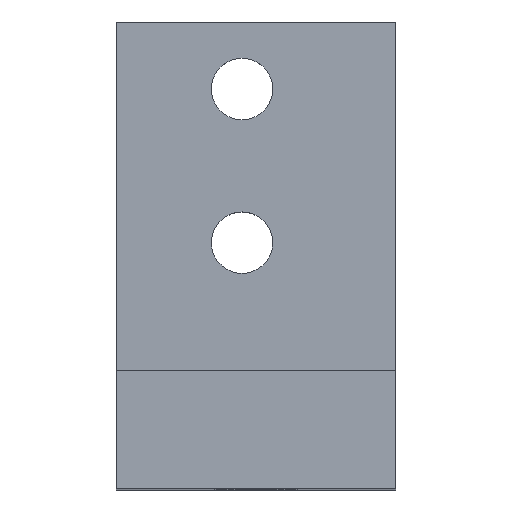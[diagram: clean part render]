
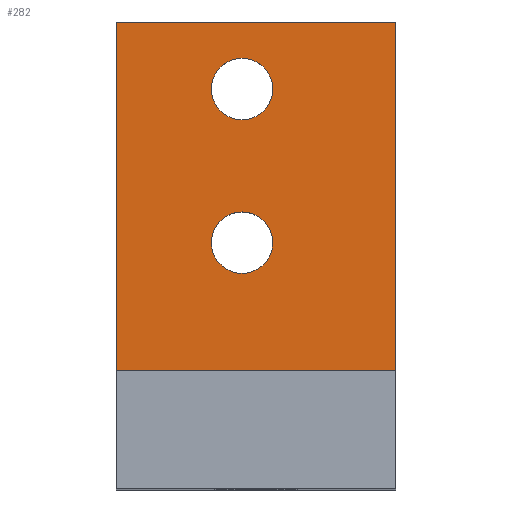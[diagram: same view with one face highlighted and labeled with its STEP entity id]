
A CAD part, top view. The second image highlights one B-rep face of the part: STEP entity #282.
In plain terms, the highlighted planar face has unit normal (0, 0, 1).
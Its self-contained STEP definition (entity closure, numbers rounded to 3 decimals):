
#25=FACE_BOUND('',#71,.T.);
#26=FACE_BOUND('',#72,.T.);
#39=CIRCLE('',#319,2.2);
#41=CIRCLE('',#322,2.2);
#50=FACE_OUTER_BOUND('',#70,.T.);
#70=EDGE_LOOP('',(#219,#220,#221,#222));
#71=EDGE_LOOP('',(#223));
#72=EDGE_LOOP('',(#224));
#93=LINE('',#462,#117);
#94=LINE('',#464,#118);
#95=LINE('',#466,#119);
#96=LINE('',#467,#120);
#117=VECTOR('',#383,10.);
#118=VECTOR('',#384,10.);
#119=VECTOR('',#385,10.);
#120=VECTOR('',#386,10.);
#145=VERTEX_POINT('',#448);
#147=VERTEX_POINT('',#454);
#149=VERTEX_POINT('',#460);
#150=VERTEX_POINT('',#461);
#151=VERTEX_POINT('',#463);
#152=VERTEX_POINT('',#465);
#171=EDGE_CURVE('',#145,#145,#39,.T.);
#174=EDGE_CURVE('',#147,#147,#41,.T.);
#177=EDGE_CURVE('',#149,#150,#93,.T.);
#178=EDGE_CURVE('',#149,#151,#94,.T.);
#179=EDGE_CURVE('',#152,#151,#95,.T.);
#180=EDGE_CURVE('',#150,#152,#96,.T.);
#219=ORIENTED_EDGE('',*,*,#177,.F.);
#220=ORIENTED_EDGE('',*,*,#178,.T.);
#221=ORIENTED_EDGE('',*,*,#179,.F.);
#222=ORIENTED_EDGE('',*,*,#180,.F.);
#223=ORIENTED_EDGE('',*,*,#171,.T.);
#224=ORIENTED_EDGE('',*,*,#174,.T.);
#268=PLANE('',#324);
#282=ADVANCED_FACE('',(#50,#25,#26),#268,.T.);
#319=AXIS2_PLACEMENT_3D('',#449,#369,#370);
#322=AXIS2_PLACEMENT_3D('',#455,#376,#377);
#324=AXIS2_PLACEMENT_3D('',#459,#381,#382);
#369=DIRECTION('center_axis',(0.,0.,-1.));
#370=DIRECTION('ref_axis',(1.,0.,0.));
#376=DIRECTION('center_axis',(0.,0.,-1.));
#377=DIRECTION('ref_axis',(1.,0.,0.));
#381=DIRECTION('center_axis',(0.,0.,1.));
#382=DIRECTION('ref_axis',(1.,0.,0.));
#383=DIRECTION('',(-1.,0.,0.));
#384=DIRECTION('',(0.,1.,0.));
#385=DIRECTION('',(1.,0.,0.));
#386=DIRECTION('',(0.,1.,0.));
#448=CARTESIAN_POINT('',(-13.2,12.2,-11.5));
#449=CARTESIAN_POINT('Origin',(-11.,12.2,-11.5));
#454=CARTESIAN_POINT('',(-13.2,23.2,-11.5));
#455=CARTESIAN_POINT('Origin',(-11.,23.2,-11.5));
#459=CARTESIAN_POINT('Origin',(-20.,3.,-11.5));
#460=CARTESIAN_POINT('',(0.,3.,-11.5));
#461=CARTESIAN_POINT('',(-20.,3.,-11.5));
#462=CARTESIAN_POINT('',(-15.,3.,-11.5));
#463=CARTESIAN_POINT('',(0.,28.,-11.5));
#464=CARTESIAN_POINT('',(0.,3.,-11.5));
#465=CARTESIAN_POINT('',(-20.,28.,-11.5));
#466=CARTESIAN_POINT('',(0.,28.,-11.5));
#467=CARTESIAN_POINT('',(-20.,3.,-11.5));
